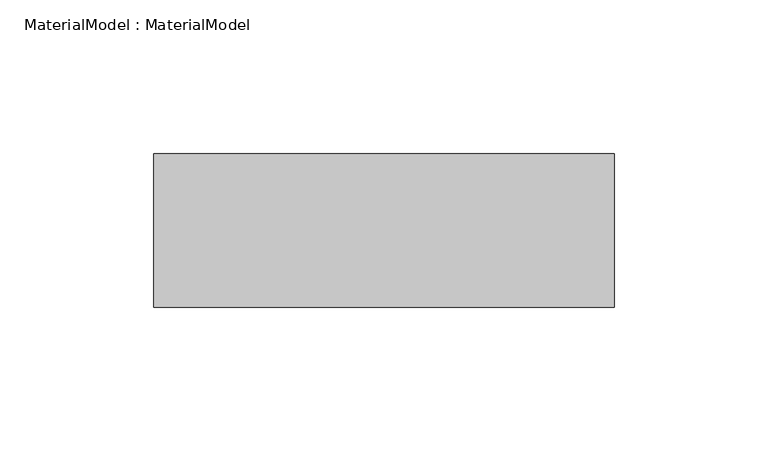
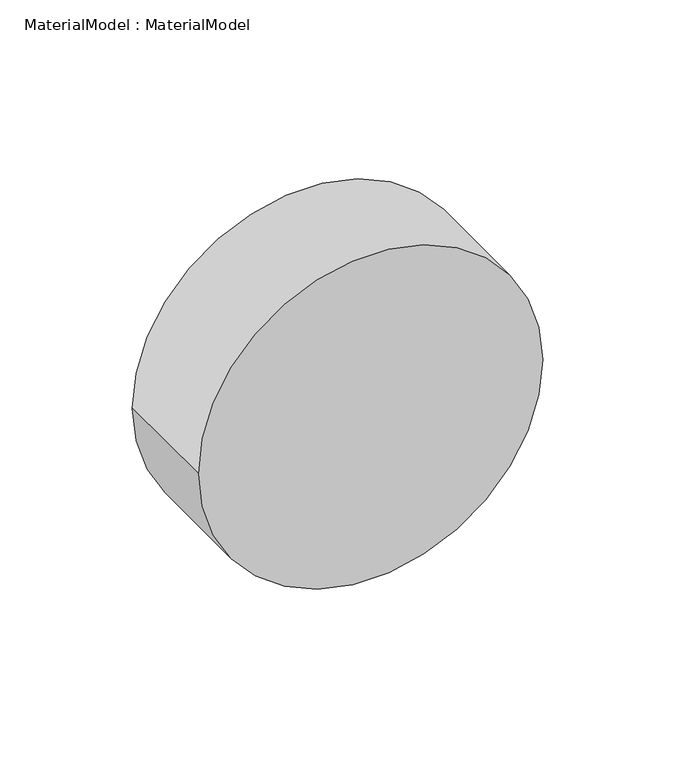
"""IFC4 building model written with IfcOpenShell, lengths in millimetres: proxy geometry, MaterialModel : MaterialModel."""

import ifcopenshell
import ifcopenshell.guid

model = None  # the IFC model being written
_history = None  # IfcOwnerHistory: only IFC2X3 demands one
_inside = {}  # id of a spatial element -> (the spatial element, [elements in it])
_under = {}  # id of a project, library or spatial element -> (it, [spatial elements below it])
_declared = {}  # id of a project -> (the project, [libraries it declares])
_typed = {}  # id of a type object -> (the type object, [elements of that type])
_made_of = {}  # id of a material, layer set ... -> (it, [elements and type objects made of it])


def new_model(schema):
    """Start an empty IFC model of exactly this schema.

    Asked for "IFC4X3", IfcOpenShell would pick the latest addendum, in which some entities
    have other attributes; the version numbers below select the first issue.
    IFC2X3 requires an IfcOwnerHistory on every rooted entity: one is made here for all.
    """
    global model, _history
    if schema == "IFC4X3":
        model = ifcopenshell.file(schema_version=(4, 3, 0, 0))
    else:
        model = ifcopenshell.file(schema=schema)
    _inside.clear()
    _under.clear()
    _declared.clear()
    _typed.clear()
    _made_of.clear()
    _history = None
    if model.schema == "IFC2X3":
        org = make("IfcOrganization", Name="unknown")
        user = make(
            "IfcPersonAndOrganization",
            ThePerson=make("IfcPerson", FamilyName="unknown"),
            TheOrganization=org,
        )
        app = make(
            "IfcApplication",
            ApplicationDeveloper=org,
            Version="unknown",
            ApplicationFullName="unknown",
            ApplicationIdentifier="unknown",
        )
        _history = make(
            "IfcOwnerHistory",
            OwningUser=user,
            OwningApplication=app,
            ChangeAction="ADDED",
            CreationDate=0,
        )
    return model


def make(cls, **values):
    """One entity of the class cls with the attributes given. An attribute that is None is left unset."""
    return model.create_entity(
        cls, **{name: value for name, value in values.items() if value is not None}
    )


def rooted(cls, **values):
    """An entity with a GlobalId (a new one), such as an element, a storey or a relation."""
    return make(cls, GlobalId=ifcopenshell.guid.new(), OwnerHistory=_history, **values)


def si_unit(unit_type, name, prefix=None):
    """IfcSIUnit, for example si_unit("LENGTHUNIT", "METRE", prefix="MILLI")."""
    return make("IfcSIUnit", UnitType=unit_type, Prefix=prefix, Name=name)


def assignment(units):
    """IfcUnitAssignment: the units of a project."""
    return None if units is None else make("IfcUnitAssignment", Units=units)


def point(xyz):
    """IfcCartesianPoint."""
    return None if xyz is None else make("IfcCartesianPoint", Coordinates=xyz)


def direction(xyz):
    """IfcDirection."""
    return None if xyz is None else make("IfcDirection", DirectionRatios=xyz)


def frame(location, z_axis=None, x_axis=None):
    """IfcAxis2Placement3D, a coordinate frame: its origin and axes. An axis left out is left unset."""
    return make(
        "IfcAxis2Placement3D",
        Location=point(location),
        Axis=direction(z_axis),
        RefDirection=direction(x_axis),
    )


def frame_2d(location, x_axis=None):
    """IfcAxis2Placement2D, a coordinate frame in the plane: its origin and x axis."""
    return make(
        "IfcAxis2Placement2D", Location=point(location), RefDirection=direction(x_axis)
    )


def origin():
    """The frame at (0, 0, 0) with its axes left unset."""
    return frame((0.0, 0.0, 0.0))


def place(relative_to, where):
    """IfcLocalPlacement: puts the frame where relative to a parent placement (None: the world)."""
    return make(
        "IfcLocalPlacement", PlacementRelTo=relative_to, RelativePlacement=where
    )


def context(
    kind, dimensions, precision=None, world=None, true_north=None, identifier=None
):
    """IfcGeometricRepresentationContext, for example the 3D "Model" context."""
    return make(
        "IfcGeometricRepresentationContext",
        ContextIdentifier=identifier,
        ContextType=kind,
        CoordinateSpaceDimension=dimensions,
        Precision=precision,
        WorldCoordinateSystem=world,
        TrueNorth=true_north,
    )


def project(units=None, contexts=None):
    """IfcProject with its units and contexts."""
    return rooted(
        "IfcProject",
        Name="project",
        RepresentationContexts=contexts,
        UnitsInContext=assignment(units),
    )


def spatial(cls, under=None, at=None, **own):
    """A site, building, storey or space (cls), placed at a placement, below another one or the project."""
    s = rooted(cls, ObjectPlacement=at, **own)
    if under is not None:
        _under.setdefault(under.id(), (under, []))[1].append(s)
    return s


def circle_curve(where, radius):
    """IfcCircle in the frame where."""
    return make("IfcCircle", Position=where, Radius=radius)


def trimmed(basis, trim1, trim2, sense, master):
    """IfcTrimmedCurve: the piece of a basis curve between two trims."""
    return make(
        "IfcTrimmedCurve",
        BasisCurve=basis,
        Trim1=trim1,
        Trim2=trim2,
        SenseAgreement=sense,
        MasterRepresentation=master,
    )


def segment(curve, same_sense, transition):
    """IfcCompositeCurveSegment."""
    return make(
        "IfcCompositeCurveSegment",
        Transition=transition,
        SameSense=same_sense,
        ParentCurve=curve,
    )


def composite_curve(segments, self_intersect=None):
    """IfcCompositeCurve: segments joined end to end."""
    return make("IfcCompositeCurve", Segments=segments, SelfIntersect=self_intersect)


def outline(outer, holes=None, kind="AREA"):
    """IfcArbitraryClosedProfileDef: a profile drawn as a closed curve; with holes, ...WithVoids."""
    if holes is None:
        return make("IfcArbitraryClosedProfileDef", ProfileType=kind, OuterCurve=outer)
    return make(
        "IfcArbitraryProfileDefWithVoids",
        ProfileType=kind,
        OuterCurve=outer,
        InnerCurves=holes,
    )


def extrude(swept, where, along, depth):
    """IfcExtrudedAreaSolid: the profile swept, set in the frame where, extruded along a direction by depth."""
    return make(
        "IfcExtrudedAreaSolid",
        SweptArea=swept,
        Position=where,
        ExtrudedDirection=direction(along),
        Depth=depth,
    )


def shape(context_of_items, identifier, shape_type, items):
    """IfcShapeRepresentation: the items that make up one representation, for example the "Body"."""
    return make(
        "IfcShapeRepresentation",
        ContextOfItems=context_of_items,
        RepresentationIdentifier=identifier,
        RepresentationType=shape_type,
        Items=items,
    )


def source(mapping_origin, context_of_items, identifier, shape_type, items):
    """IfcRepresentationMap: a shape defined once, which mapped items show again and again."""
    return make(
        "IfcRepresentationMap",
        MappingOrigin=mapping_origin,
        MappedRepresentation=shape(context_of_items, identifier, shape_type, items),
    )


def transform(
    local_origin,
    x_axis=None,
    y_axis=None,
    z_axis=None,
    scale=None,
    scale2=None,
    scale3=None,
    uniform=True,
):
    """IfcCartesianTransformationOperator3D, or its non-uniform kind. x_axis, y_axis, z_axis: its Axis1, 2, 3."""
    if uniform:
        return make(
            "IfcCartesianTransformationOperator3D",
            Axis1=direction(x_axis),
            Axis2=direction(y_axis),
            LocalOrigin=point(local_origin),
            Scale=scale,
            Axis3=direction(z_axis),
        )
    return make(
        "IfcCartesianTransformationOperator3DnonUniform",
        Axis1=direction(x_axis),
        Axis2=direction(y_axis),
        LocalOrigin=point(local_origin),
        Scale=scale,
        Axis3=direction(z_axis),
        Scale2=scale2,
        Scale3=scale3,
    )


def mapped(mapping_source, mapping_target):
    """IfcMappedItem: shows the shape of a source again, moved by a transform."""
    return make(
        "IfcMappedItem", MappingSource=mapping_source, MappingTarget=mapping_target
    )


def made_of(thing, what):
    """Note that an element or type object is made of a material, layer set ...; save() writes the relation."""
    if what is not None:
        _made_of.setdefault(what.id(), (what, []))[1].append(thing)
    return thing


def element(
    cls,
    number,
    at=None,
    inside=None,
    cuts=None,
    type_object=None,
    material=None,
    context=None,
    identifier="Body",
    shape_type=None,
    held_by="IfcProductDefinitionShape",
    body=None,
    shapes=None,
    **own,
):
    """One element of the class cls, such as IfcWall. Its Tag is "e" and its number.

    at: its placement. inside: the storey or other place that contains it. cuts: it is an
    opening in that element (IfcRelVoidsElement). A single representation is given by context,
    identifier, shape_type and body (its items); several are given by shapes. held_by: the class
    of the entity that holds the representations. save() writes the other relations.
    """
    e = rooted(cls, Tag="e%d" % number, ObjectPlacement=at, **own)
    if body is not None:
        shapes = [shape(context, identifier, shape_type, body)]
    if shapes is not None:
        e.Representation = make(held_by, Representations=shapes)
    if inside is not None:
        _inside.setdefault(inside.id(), (inside, []))[1].append(e)
    if cuts is not None:
        rooted(
            "IfcRelVoidsElement", RelatingBuildingElement=cuts, RelatedOpeningElement=e
        )
    if type_object is not None:
        _typed.setdefault(type_object.id(), (type_object, []))[1].append(e)
    return made_of(e, material)


def aggregate(whole, parts):
    """IfcRelAggregates: a whole, such as a stair, and the parts it consists of."""
    return rooted("IfcRelAggregates", RelatingObject=whole, RelatedObjects=parts)


def save(model, path):
    """Write the relations noted so far, then the file.

    IfcRelAggregates (storeys below a building ...), IfcRelContainedInSpatialStructure (elements
    in a storey), IfcRelDefinesByType, IfcRelAssociatesMaterial and IfcRelDeclares: one each for
    every whole, place, type object, material and project.
    """
    for whole, parts in _under.values():
        aggregate(whole, parts)
    for where, things in _inside.values():
        rooted(
            "IfcRelContainedInSpatialStructure",
            RelatedElements=things,
            RelatingStructure=where,
        )
    for kind, things in _typed.values():
        rooted("IfcRelDefinesByType", RelatedObjects=things, RelatingType=kind)
    for what, things in _made_of.values():
        rooted("IfcRelAssociatesMaterial", RelatedObjects=things, RelatingMaterial=what)
    for by, libraries in _declared.values():
        rooted("IfcRelDeclares", RelatingContext=by, RelatedDefinitions=libraries)
    model.write(path)


def materialmodel_materialmodel_fd2eb195(model_context):
    return source(origin(), model_context, "Body", "SweptSolid", [
        extrude(outline(composite_curve([segment(trimmed(circle_curve(frame_2d((75.0, 0.0)), 75.0), [point((75.0, -75.0))], [point((75.0, 75.0))], False, "CARTESIAN"), True, "CONTINUOUS"), segment(trimmed(circle_curve(frame_2d((75.0, 0.0)), 75.0), [point((75.0, 75.0))], [point((75.0, -75.0))], False, "CARTESIAN"), True, "CONTINUOUS")], self_intersect=False)), frame((0.0, -50.0, 0.0), z_axis=(0.0, 1.0, 0.0), x_axis=(0.0, 0.0, 1.0)), (0.0, 0.0, 1.0), 50.0),
    ])


if __name__ == "__main__":
    model = new_model("IFC4")
    model_context = context("Model", 3, world=origin())
    ifc_project = project(units=[si_unit("LENGTHUNIT", "METRE", prefix="MILLI")], contexts=[model_context])
    site = spatial("IfcSite", under=ifc_project)
    building = spatial("IfcBuilding", under=site)
    placement = place(None, origin())
    materialmodel_materialmodel_shape = materialmodel_materialmodel_fd2eb195(model_context)
    element("IfcBuildingElementProxy", 1, Name="MaterialModel : MaterialModel", ObjectType="MaterialModel : MaterialModel", at=placement, inside=building, context=model_context, shape_type="MappedRepresentation", body=[
        mapped(materialmodel_materialmodel_shape, transform((0.0, 0.0, 0.0), x_axis=(1.0, 0.0, 0.0), y_axis=(0.0, 1.0, 0.0), z_axis=(0.0, 0.0, 1.0))),
    ])
    save(model, "model.ifc")
